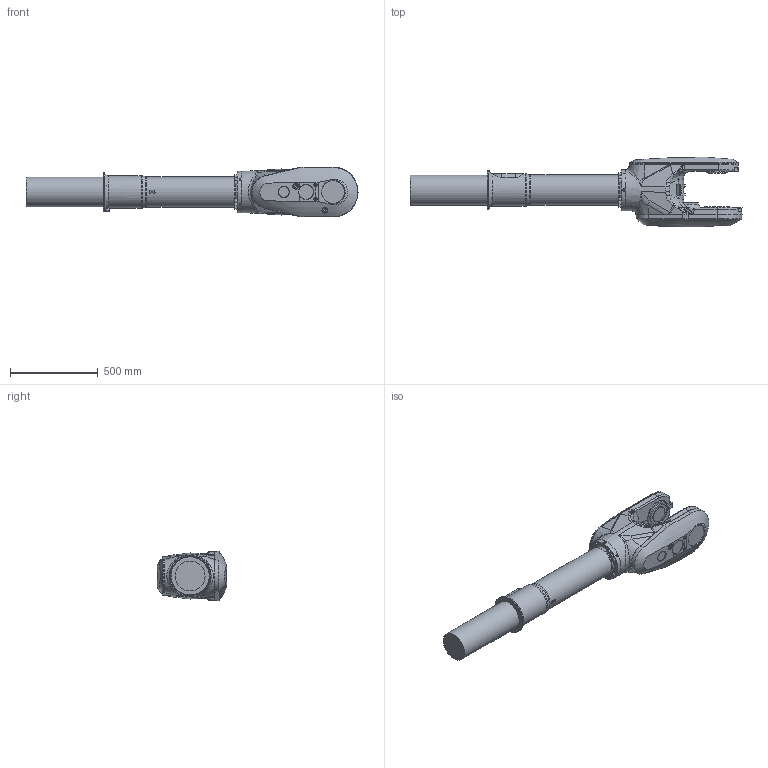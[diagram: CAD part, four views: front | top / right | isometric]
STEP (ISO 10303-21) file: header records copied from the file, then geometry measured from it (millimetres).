
FILE_DESCRIPTION (( 'STEP AP214' ), '1' );
FILE_NAME ('IRB6740_240kg-320_OC_00_LINK04_CAD.step', '2026-05-13T05:03:30', ( '' ), ( '' ), 'SwSTEP 2.0', 'SolidWorks 2024', '' );
FILE_SCHEMA (( 'AUTOMOTIVE_DESIGN' ));
Length unit declared in the file: millimetre
Products named in the file (1): IRB6740_240kg-320_OC_00_LINK04_CAD
Bounding box: 1887.5 x 396.47 x 284 mm (x, y, z)
Volume: 66548550.1 mm3; surface area: 1600643.7 mm2
Topology: 1 solids, 4 shells, 605 faces, 1514 edges, 970 vertices
Faces by surface type: plane 309, cylinder 115, bspline 85, cone 75, torus 21
Full cylindrical faces by diameter (mm): 6.8 x7, 8.3 x2, 10.5 x1, 12 x3, 14 x2, 17.4 x1, 17.9 x2, 18 x1, 18.27 x12, 20 x2, 24 x1, 27 x2, 28.01 x1, 28.5 x2, 62 x1, 92 x1, 124 x1, 132 x1, 138 x1, 148 x1, 153 x1, 164.985 x1, 170 x1, 172 x1, 185 x1, 234 x1
Entity records: 34713 total; most frequent: CARTESIAN_POINT 15499, ORIENTED_EDGE 2724, DIRECTION 2208, EDGE_CURVE 1362, VERTEX_POINT 921, AXIS2_PLACEMENT_3D 808, EDGE_LOOP 765, FACE_OUTER_BOUND 667
